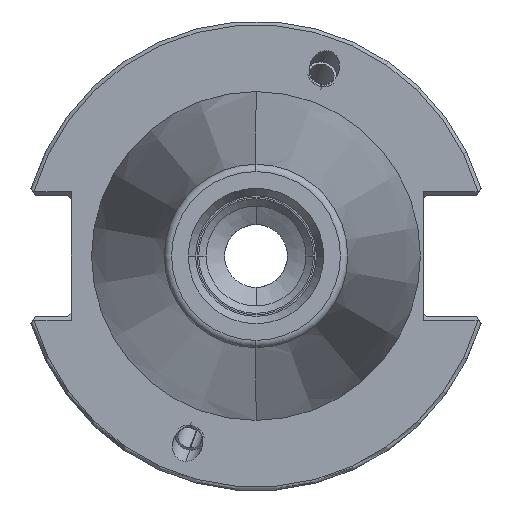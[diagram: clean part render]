
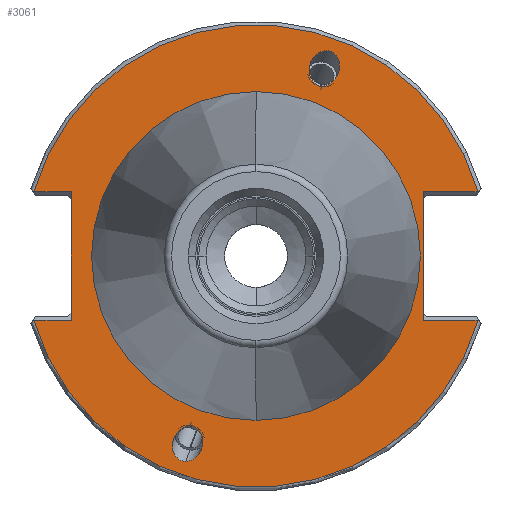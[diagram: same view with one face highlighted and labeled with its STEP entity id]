
A CAD part, left-side view. The second image highlights one B-rep face of the part: STEP entity #3061.
In plain terms, the highlighted planar face has unit normal (-1, 0, 0).
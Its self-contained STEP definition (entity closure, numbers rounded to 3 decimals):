
#116=CARTESIAN_POINT('',(3.175,0.,0.));
#117=DIRECTION('',(1.,0.,0.));
#118=DIRECTION('',(0.,1.,0.));
#119=AXIS2_PLACEMENT_3D('',#116,#117,#118);
#121=CARTESIAN_POINT('',(3.175,0.,0.));
#122=DIRECTION('',(1.,0.,0.));
#123=DIRECTION('',(0.,-1.,0.));
#124=AXIS2_PLACEMENT_3D('',#121,#122,#123);
#126=CARTESIAN_POINT('',(3.175,9.498,-27.766));
#127=CARTESIAN_POINT('',(3.175,9.257,-27.766));
#128=CARTESIAN_POINT('',(3.175,8.727,-27.663));
#129=CARTESIAN_POINT('',(3.175,7.941,-27.117));
#130=CARTESIAN_POINT('',(3.175,7.379,-26.257));
#131=CARTESIAN_POINT('',(3.175,7.151,-25.372));
#132=CARTESIAN_POINT('',(3.175,7.185,-24.486));
#133=CARTESIAN_POINT('',(3.175,7.557,-23.627));
#134=CARTESIAN_POINT('',(3.175,8.223,-23.08));
#135=CARTESIAN_POINT('',(3.175,8.731,-22.978));
#136=CARTESIAN_POINT('',(3.175,8.971,-22.978));
#138=CARTESIAN_POINT('',(3.175,8.971,-22.978));
#139=CARTESIAN_POINT('',(3.175,9.212,-22.978));
#140=CARTESIAN_POINT('',(3.175,9.742,-23.08));
#141=CARTESIAN_POINT('',(3.175,10.528,-23.627));
#142=CARTESIAN_POINT('',(3.175,11.09,-24.486));
#143=CARTESIAN_POINT('',(3.175,11.318,-25.372));
#144=CARTESIAN_POINT('',(3.175,11.284,-26.257));
#145=CARTESIAN_POINT('',(3.175,10.912,-27.117));
#146=CARTESIAN_POINT('',(3.175,10.246,-27.663));
#147=CARTESIAN_POINT('',(3.175,9.738,-27.766));
#148=CARTESIAN_POINT('',(3.175,9.498,-27.766));
#150=CARTESIAN_POINT('',(3.175,-9.498,27.766));
#151=CARTESIAN_POINT('',(3.175,-9.257,27.766));
#152=CARTESIAN_POINT('',(3.175,-8.727,27.663));
#153=CARTESIAN_POINT('',(3.175,-7.941,27.117));
#154=CARTESIAN_POINT('',(3.175,-7.379,26.257));
#155=CARTESIAN_POINT('',(3.175,-7.151,25.372));
#156=CARTESIAN_POINT('',(3.175,-7.185,24.486));
#157=CARTESIAN_POINT('',(3.175,-7.557,23.627));
#158=CARTESIAN_POINT('',(3.175,-8.223,23.08));
#159=CARTESIAN_POINT('',(3.175,-8.731,22.978));
#160=CARTESIAN_POINT('',(3.175,-8.971,22.978));
#162=CARTESIAN_POINT('',(3.175,-8.971,22.978));
#163=CARTESIAN_POINT('',(3.175,-9.212,22.978));
#164=CARTESIAN_POINT('',(3.175,-9.742,23.08));
#165=CARTESIAN_POINT('',(3.175,-10.528,23.627));
#166=CARTESIAN_POINT('',(3.175,-11.09,24.486));
#167=CARTESIAN_POINT('',(3.175,-11.318,25.372));
#168=CARTESIAN_POINT('',(3.175,-11.284,26.257));
#169=CARTESIAN_POINT('',(3.175,-10.912,27.117));
#170=CARTESIAN_POINT('',(3.175,-10.246,27.663));
#171=CARTESIAN_POINT('',(3.175,-9.738,27.766));
#172=CARTESIAN_POINT('',(3.175,-9.498,27.766));
#174=DIRECTION('',(0.,-1.,0.));
#175=VECTOR('',#174,5.017);
#176=CARTESIAN_POINT('',(3.175,30.017,8.69));
#177=LINE('',#176,#175);
#178=DIRECTION('',(0.,-1.,0.));
#179=VECTOR('',#178,7.417);
#180=CARTESIAN_POINT('',(3.175,-22.6,8.69));
#181=LINE('',#180,#179);
#182=DIRECTION('',(0.,1.,0.));
#183=VECTOR('',#182,7.417);
#184=CARTESIAN_POINT('',(3.175,-30.017,-8.69));
#185=LINE('',#184,#183);
#186=DIRECTION('',(0.,1.,0.));
#187=VECTOR('',#186,5.017);
#188=CARTESIAN_POINT('',(3.175,25.,-8.69));
#189=LINE('',#188,#187);
#625=DIRECTION('',(0.,0.,-1.));
#626=VECTOR('',#625,17.38);
#627=CARTESIAN_POINT('',(3.175,25.,8.69));
#628=LINE('',#627,#626);
#767=DIRECTION('',(0.,0.,1.));
#768=VECTOR('',#767,17.38);
#769=CARTESIAN_POINT('',(3.175,-22.6,-8.69));
#770=LINE('',#769,#768);
#847=CARTESIAN_POINT('',(3.175,0.,0.));
#848=DIRECTION('',(-1.,0.,0.));
#849=DIRECTION('',(0.,-0.961,0.278));
#850=AXIS2_PLACEMENT_3D('',#847,#848,#849);
#921=CARTESIAN_POINT('',(3.175,0.,0.));
#922=DIRECTION('',(-1.,0.,0.));
#923=DIRECTION('',(0.,0.961,-0.278));
#924=AXIS2_PLACEMENT_3D('',#921,#922,#923);
#2488=CARTESIAN_POINT('',(3.175,22.2,0.));
#2489=CARTESIAN_POINT('',(3.175,-22.2,0.));
#2490=VERTEX_POINT('',#2488);
#2491=VERTEX_POINT('',#2489);
#2554=VERTEX_POINT('',#126);
#2555=VERTEX_POINT('',#136);
#2590=CARTESIAN_POINT('',(3.175,30.017,8.69));
#2591=CARTESIAN_POINT('',(3.175,25.,8.69));
#2592=VERTEX_POINT('',#2590);
#2593=VERTEX_POINT('',#2591);
#2598=CARTESIAN_POINT('',(3.175,25.,-8.69));
#2599=CARTESIAN_POINT('',(3.175,30.017,-8.69));
#2600=VERTEX_POINT('',#2598);
#2601=VERTEX_POINT('',#2599);
#2606=CARTESIAN_POINT('',(3.175,-22.6,8.69));
#2607=CARTESIAN_POINT('',(3.175,-30.017,8.69));
#2608=VERTEX_POINT('',#2606);
#2609=VERTEX_POINT('',#2607);
#2614=CARTESIAN_POINT('',(3.175,-30.017,
-8.69));
#2615=CARTESIAN_POINT('',(3.175,-22.6,-8.69));
#2616=VERTEX_POINT('',#2614);
#2617=VERTEX_POINT('',#2615);
#2652=CARTESIAN_POINT('',(3.175,-9.498,27.766));
#2653=VERTEX_POINT('',#2652);
#2654=CARTESIAN_POINT('',(3.175,-8.971,22.978));
#2655=VERTEX_POINT('',#2654);
#3022=CARTESIAN_POINT('',(3.175,0.,0.));
#3023=DIRECTION('',(1.,0.,0.));
#3024=DIRECTION('',(0.,0.,1.));
#3025=AXIS2_PLACEMENT_3D('',#3022,#3023,#3024);
#3026=PLANE('',#3025);
#3028=ORIENTED_EDGE('',*,*,#3027,.F.);
#3030=ORIENTED_EDGE('',*,*,#3029,.F.);
#3032=ORIENTED_EDGE('',*,*,#3031,.F.);
#3034=ORIENTED_EDGE('',*,*,#3033,.F.);
#3036=ORIENTED_EDGE('',*,*,#3035,.F.);
#3038=ORIENTED_EDGE('',*,*,#3037,.F.);
#3040=ORIENTED_EDGE('',*,*,#3039,.F.);
#3042=ORIENTED_EDGE('',*,*,#3041,.F.);
#3043=EDGE_LOOP('',(#3028,#3030,#3032,#3034,#3036,#3038,#3040,#3042));
#3044=FACE_OUTER_BOUND('',#3043,.F.);
#3046=ORIENTED_EDGE('',*,*,#3045,.T.);
#3048=ORIENTED_EDGE('',*,*,#3047,.T.);
#3049=EDGE_LOOP('',(#3046,#3048));
#3050=FACE_BOUND('',#3049,.F.);
#3052=ORIENTED_EDGE('',*,*,#3051,.T.);
#3054=ORIENTED_EDGE('',*,*,#3053,.T.);
#3055=EDGE_LOOP('',(#3052,#3054));
#3056=FACE_BOUND('',#3055,.F.);
#3057=ORIENTED_EDGE('',*,*,#2975,.F.);
#3058=ORIENTED_EDGE('',*,*,#2990,.F.);
#3059=EDGE_LOOP('',(#3057,#3058));
#3060=FACE_BOUND('',#3059,.F.);
#3061=ADVANCED_FACE('',(#3044,#3050,#3056,#3060),#3026,.F.);
#120=CIRCLE('',#119,22.2);
#125=CIRCLE('',#124,22.2);
#137=B_SPLINE_CURVE_WITH_KNOTS('',3,(#126,#127,#128,#129,#130,#131,#132,#133,
#134,#135,#136),.UNSPECIFIED.,.F.,.F.,(4,1,1,1,1,1,1,1,4),(0.,0.125,0.25,
0.375,0.5,0.625,0.75,0.875,1.),.UNSPECIFIED.);
#149=B_SPLINE_CURVE_WITH_KNOTS('',3,(#138,#139,#140,#141,#142,#143,#144,#145,
#146,#147,#148),.UNSPECIFIED.,.F.,.F.,(4,1,1,1,1,1,1,1,4),(0.,0.125,0.25,
0.375,0.5,0.625,0.75,0.875,1.),.UNSPECIFIED.);
#161=B_SPLINE_CURVE_WITH_KNOTS('',3,(#150,#151,#152,#153,#154,#155,#156,#157,
#158,#159,#160),.UNSPECIFIED.,.F.,.F.,(4,1,1,1,1,1,1,1,4),(0.,0.125,0.25,
0.375,0.5,0.625,0.75,0.875,1.),.UNSPECIFIED.);
#173=B_SPLINE_CURVE_WITH_KNOTS('',3,(#162,#163,#164,#165,#166,#167,#168,#169,
#170,#171,#172),.UNSPECIFIED.,.F.,.F.,(4,1,1,1,1,1,1,1,4),(0.,0.125,0.25,
0.375,0.5,0.625,0.75,0.875,1.),.UNSPECIFIED.);
#851=CIRCLE('',#850,31.25);
#925=CIRCLE('',#924,31.25);
#2975=EDGE_CURVE('',#2490,#2491,#120,.T.);
#2990=EDGE_CURVE('',#2491,#2490,#125,.T.);
#3027=EDGE_CURVE('',#2592,#2593,#177,.T.);
#3029=EDGE_CURVE('',#2609,#2592,#851,.T.);
#3031=EDGE_CURVE('',#2608,#2609,#181,.T.);
#3033=EDGE_CURVE('',#2617,#2608,#770,.T.);
#3035=EDGE_CURVE('',#2616,#2617,#185,.T.);
#3037=EDGE_CURVE('',#2601,#2616,#925,.T.);
#3039=EDGE_CURVE('',#2600,#2601,#189,.T.);
#3041=EDGE_CURVE('',#2593,#2600,#628,.T.);
#3045=EDGE_CURVE('',#2554,#2555,#137,.T.);
#3047=EDGE_CURVE('',#2555,#2554,#149,.T.);
#3051=EDGE_CURVE('',#2653,#2655,#161,.T.);
#3053=EDGE_CURVE('',#2655,#2653,#173,.T.);
